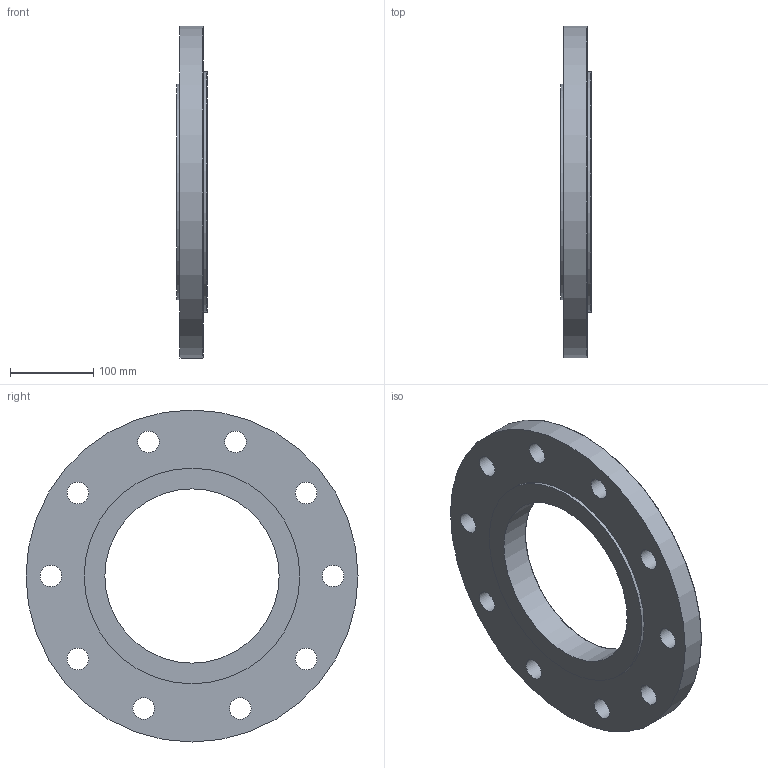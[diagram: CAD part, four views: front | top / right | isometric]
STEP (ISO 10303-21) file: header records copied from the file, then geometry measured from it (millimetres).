
FILE_DESCRIPTION((''),'2;1');
FILE_NAME('D:\PAWEŁ\ZLECENIA\2011 DualSystem\001 Modele\DKAB150_\DK_150_STEP\AZ_150.stp','2012-05-16T16:32:32',('admin'),(''),'Autodesk Inventor 2009','Autodesk Inventor 2009','');
FILE_SCHEMA(('AUTOMOTIVE_DESIGN { 1 0 10303 214 1 1 1 1 }'));
Length unit declared in the file: millimetre
Products named in the file (1): AZ_150
Bounding box: 37 x 400 x 400 mm (x, y, z)
Volume: 2630829.9 mm3; surface area: 260918.1 mm2
Topology: 1 solids, 1 shells, 22 faces, 60 edges, 42 vertices
Faces by surface type: bspline 11, cylinder 4, plane 4, torus 3
Full cylindrical faces by diameter (mm): 210 x1, 260 x1, 290 x1, 400 x1
Entity records: 784 total; most frequent: CARTESIAN_POINT 301, DIRECTION 88, ORIENTED_EDGE 64, EDGE_LOOP 64, AXIS2_PLACEMENT_3D 44, FACE_BOUND 42, VERTEX_POINT 32, CIRCLE 32
